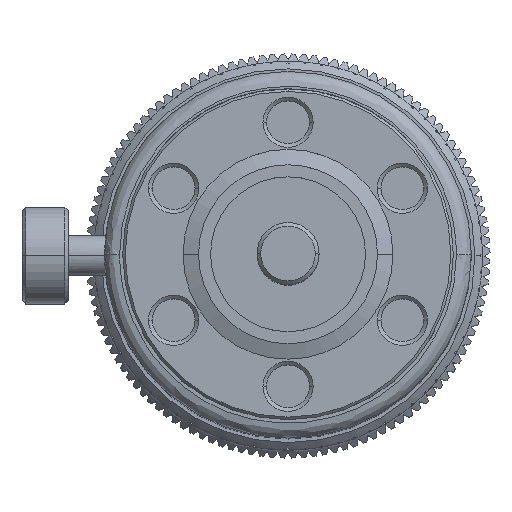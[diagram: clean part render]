
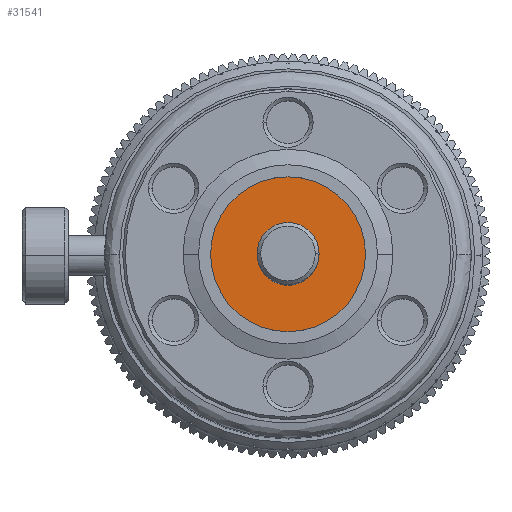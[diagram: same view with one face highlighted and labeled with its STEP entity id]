
A CAD part, top view. The second image highlights one B-rep face of the part: STEP entity #31541.
In plain terms, the highlighted planar face has unit normal (0, 0, 1).
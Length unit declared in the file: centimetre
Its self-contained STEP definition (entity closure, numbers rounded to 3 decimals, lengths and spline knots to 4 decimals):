
#6322 = CARTESIAN_POINT ( 'NONE',  ( 0.7912, 0., -0.1499 ) ) ;
#7311 = CARTESIAN_POINT ( 'NONE',  ( -0.7912, 0., -0.1499 ) ) ;
#7465 = CARTESIAN_POINT ( 'NONE',  ( -0.3169, 0., -0.1499 ) ) ;
#7616 = CARTESIAN_POINT ( 'NONE',  ( 0., 0., -0.1499 ) ) ;
#7618 = DIRECTION ( 'NONE',  ( 0., 0., 1. ) ) ;
#7620 = DIRECTION ( 'NONE',  ( 1., 0., 0. ) ) ;
#7762 = DIRECTION ( 'NONE',  ( 1., 0., 0. ) ) ;
#8487 = CARTESIAN_POINT ( 'NONE',  ( 0., 0., -0.1499 ) ) ;
#8491 = DIRECTION ( 'NONE',  ( 0., 0., -1. ) ) ;
#9295 = AXIS2_PLACEMENT_3D ( 'NONE', #8487, #8491, #7762 ) ;
#9349 = AXIS2_PLACEMENT_3D ( 'NONE', #54603, #54604, #54606 ) ;
#11770 = CIRCLE ( 'NONE', #30595, 0.3169 ) ;
#13626 = EDGE_LOOP ( 'NONE', ( #35306, #35092 ) ) ;
#14533 = EDGE_LOOP ( 'NONE', ( #35501, #35641 ) ) ;
#15619 = VERTEX_POINT ( 'NONE', #56962 ) ;
#15844 = VERTEX_POINT ( 'NONE', #6322 ) ;
#16025 = VERTEX_POINT ( 'NONE', #7465 ) ;
#16108 = VERTEX_POINT ( 'NONE', #7311 ) ;
#21335 = CARTESIAN_POINT ( 'NONE',  ( 0.7633, 0., -0.1499 ) ) ;
#21336 = PLANE ( 'NONE',  #49473 ) ;
#21341 = DIRECTION ( 'NONE',  ( 0., 0., 1. ) ) ;
#21342 = DIRECTION ( 'NONE',  ( 0., -1., 0. ) ) ;
#28021 = EDGE_CURVE ( 'NONE', #16025, #15619, #29686, .T. ) ;
#28655 = EDGE_CURVE ( 'NONE', #16108, #15844, #35945, .T. ) ;
#29686 = CIRCLE ( 'NONE', #9295, 0.3169 ) ;
#30595 = AXIS2_PLACEMENT_3D ( 'NONE', #38055, #38057, #38058 ) ;
#31541 = ADVANCED_FACE ( 'NONE', ( #35757, #35710 ), #21336, .T. ) ;
#33773 = EDGE_CURVE ( 'NONE', #15844, #16108, #40258, .T. ) ;
#35092 = ORIENTED_EDGE ( 'NONE', *, *, #28021, .T. ) ;
#35306 = ORIENTED_EDGE ( 'NONE', *, *, #50514, .T. ) ;
#35501 = ORIENTED_EDGE ( 'NONE', *, *, #33773, .T. ) ;
#35641 = ORIENTED_EDGE ( 'NONE', *, *, #28655, .T. ) ;
#35710 = FACE_OUTER_BOUND ( 'NONE', #14533, .T. ) ;
#35757 = FACE_BOUND ( 'NONE', #13626, .T. ) ;
#35945 = CIRCLE ( 'NONE', #9349, 0.7912 ) ;
#38055 = CARTESIAN_POINT ( 'NONE',  ( 0., 0., -0.1499 ) ) ;
#38057 = DIRECTION ( 'NONE',  ( 0., 0., -1. ) ) ;
#38058 = DIRECTION ( 'NONE',  ( 1., 0., 0. ) ) ;
#40258 = CIRCLE ( 'NONE', #49531, 0.7912 ) ;
#49473 = AXIS2_PLACEMENT_3D ( 'NONE', #21335, #21341, #21342 ) ;
#49531 = AXIS2_PLACEMENT_3D ( 'NONE', #7616, #7618, #7620 ) ;
#50514 = EDGE_CURVE ( 'NONE', #15619, #16025, #11770, .T. ) ;
#54603 = CARTESIAN_POINT ( 'NONE',  ( 0., 0., -0.1499 ) ) ;
#54604 = DIRECTION ( 'NONE',  ( 0., 0., 1. ) ) ;
#54606 = DIRECTION ( 'NONE',  ( 1., 0., 0. ) ) ;
#56962 = CARTESIAN_POINT ( 'NONE',  ( 0.3169, 0., -0.1499 ) ) ;
